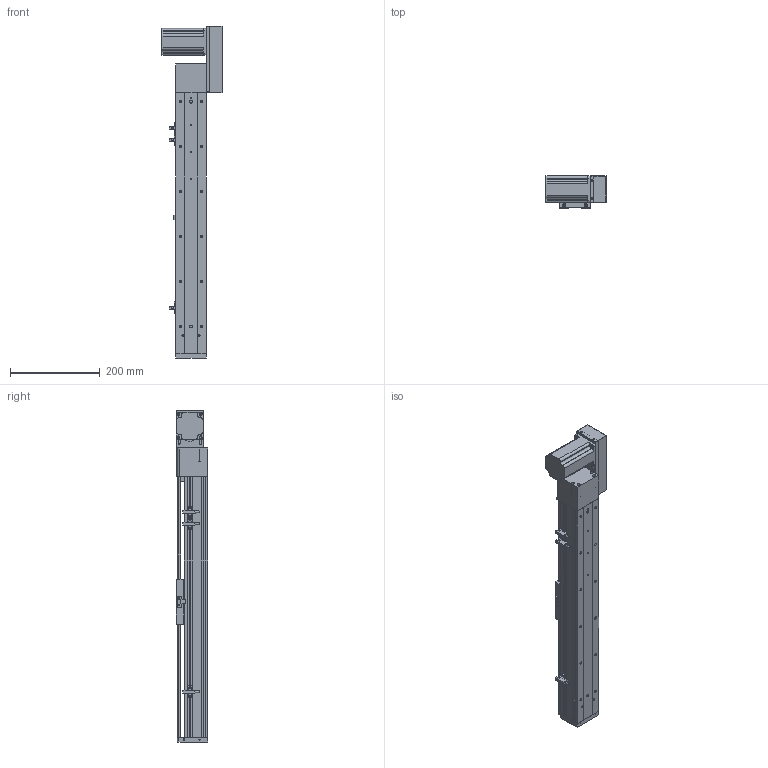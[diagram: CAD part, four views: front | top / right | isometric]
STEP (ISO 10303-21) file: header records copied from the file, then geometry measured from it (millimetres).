
FILE_DESCRIPTION (( 'STEP AP203' ), '1' );
FILE_NAME ('ML68-S400-CL.STEP', '2016-08-04T11:48:20', ( '' ), ( '' ), 'SwSTEP 2.0', 'SolidWorks 2014', '' );
FILE_SCHEMA (( 'CONFIG_CONTROL_DESIGN' ));
Length unit declared in the file: millimetre
Products named in the file (12): ML68-S400-CL; 60換覜結え; ML68雄赽釱; 換覜ん; ML68菁釱^ML68-S400-CL; QS68酘衵殏萇儂啣; ML68傷啣; ML68滅鳥啣盓傅輸媼; ML68奻裔^ML68-S400-CL; 三协电机MH201N2_預設; QS68左右折电机板罩子; ML68-BR傷啣
Assembly tree (13 placements, depth 2):
  ML68-S400-CL
    ML68菁釱^ML68-S400-CL
    ML68奻裔^ML68-S400-CL
    60換覜結え
    ML68-BR傷啣
    換覜ん  x3
    ML68傷啣
    三协电机MH201N2_預設
    ML68雄赽釱
    QS68酘衵殏萇儂啣
    QS68左右折电机板罩子
    ML68滅鳥啣盓傅輸媼
Bounding box: 133.5 x 70.5 x 738.5 mm (x, y, z)
Volume: 1431653.2 mm3; surface area: 508660.2 mm2
Topology: 13 solids, 13 shells, 885 faces, 2422 edges, 1539 vertices
Faces by surface type: cylinder 402, plane 391, cone 92
Entity records: 27978 total; most frequent: CARTESIAN_POINT 5278, DIRECTION 4588, ORIENTED_EDGE 4352, EDGE_CURVE 2176, AXIS2_PLACEMENT_3D 1653, VERTEX_POINT 1427, VECTOR 1282, LINE 1282
